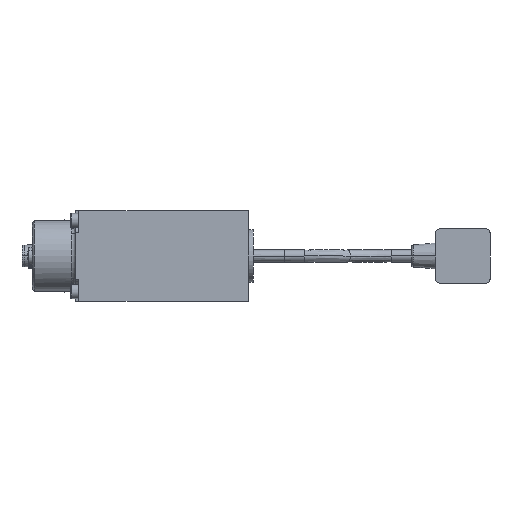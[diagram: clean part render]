
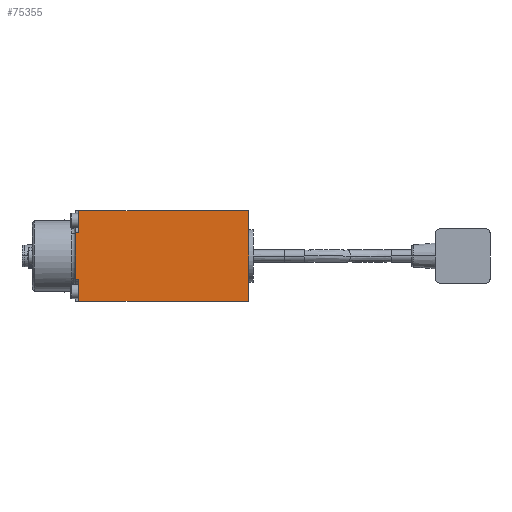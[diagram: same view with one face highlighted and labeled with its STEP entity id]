
A CAD part, front view. The second image highlights one B-rep face of the part: STEP entity #75355.
In plain terms, the highlighted planar face has unit normal (0, -1, 0).
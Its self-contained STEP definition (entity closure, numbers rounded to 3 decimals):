
#42582 = FACE_OUTER_BOUND ( 'NONE', #82994, .T. ) ;
#42585 = AXIS2_PLACEMENT_3D ( 'NONE', #46135, #46136, #46139 ) ;
#46132 = PLANE ( 'NONE',  #42585 ) ;
#46135 = CARTESIAN_POINT ( 'NONE',  ( 86., -22.5, 22.5 ) ) ;
#46136 = DIRECTION ( 'NONE',  ( 0., 1., 0. ) ) ;
#46139 = DIRECTION ( 'NONE',  ( 0., 0., 1. ) ) ;
#75355 = ADVANCED_FACE ( 'NONE', ( #42582 ), #46132, .F. ) ;
#76759 = VECTOR ( 'NONE', #81945, 1000. ) ;
#76814 = VECTOR ( 'NONE', #82269, 1000. ) ;
#76820 = VECTOR ( 'NONE', #82299, 1000. ) ;
#76822 = VECTOR ( 'NONE', #82311, 1000. ) ;
#76823 = VECTOR ( 'NONE', #82317, 1000. ) ;
#76824 = VECTOR ( 'NONE', #82323, 1000. ) ;
#76825 = VECTOR ( 'NONE', #82329, 1000. ) ;
#76827 = VECTOR ( 'NONE', #82335, 1000. ) ;
#81941 = LINE ( 'NONE', #81943, #76759 ) ;
#81943 = CARTESIAN_POINT ( 'NONE',  ( 0., -22.5, 22.5 ) ) ;
#81945 = DIRECTION ( 'NONE',  ( 0., 0., -1. ) ) ;
#82265 = LINE ( 'NONE', #82267, #76814 ) ;
#82267 = CARTESIAN_POINT ( 'NONE',  ( 86., -22.5, -22.5 ) ) ;
#82269 = DIRECTION ( 'NONE',  ( -1., 0., 0. ) ) ;
#82295 = LINE ( 'NONE', #82297, #76820 ) ;
#82297 = CARTESIAN_POINT ( 'NONE',  ( 86., -22.5, 22.5 ) ) ;
#82299 = DIRECTION ( 'NONE',  ( -1., 0., 0. ) ) ;
#82307 = LINE ( 'NONE', #82309, #76822 ) ;
#82309 = CARTESIAN_POINT ( 'NONE',  ( 1.5, -22.5, 11.68 ) ) ;
#82311 = DIRECTION ( 'NONE',  ( -1., 0., 0. ) ) ;
#82313 = LINE ( 'NONE', #82315, #76823 ) ;
#82315 = CARTESIAN_POINT ( 'NONE',  ( 1.5, -22.5, 11.68 ) ) ;
#82317 = DIRECTION ( 'NONE',  ( 0., 0., 1. ) ) ;
#82319 = LINE ( 'NONE', #82321, #76824 ) ;
#82321 = CARTESIAN_POINT ( 'NONE',  ( 1.5, -22.5, -11.68 ) ) ;
#82323 = DIRECTION ( 'NONE',  ( -1., 0., 0. ) ) ;
#82325 = LINE ( 'NONE', #82327, #76825 ) ;
#82327 = CARTESIAN_POINT ( 'NONE',  ( 1.5, -22.5, -11.68 ) ) ;
#82329 = DIRECTION ( 'NONE',  ( 0., 0., 1. ) ) ;
#82331 = LINE ( 'NONE', #82333, #76827 ) ;
#82333 = CARTESIAN_POINT ( 'NONE',  ( 86., -22.5, 22.5 ) ) ;
#82335 = DIRECTION ( 'NONE',  ( 0., 0., -1. ) ) ;
#82994 = EDGE_LOOP ( 'NONE', ( #95355, #95357, #95356, #95358, #95360, #95359, #95361, #95363 ) ) ;
#88694 = CARTESIAN_POINT ( 'NONE',  ( 0., -22.5, -11.68 ) ) ;
#88695 = CARTESIAN_POINT ( 'NONE',  ( 0., -22.5, 11.68 ) ) ;
#88732 = CARTESIAN_POINT ( 'NONE',  ( 1.5, -22.5, -22.5 ) ) ;
#88734 = CARTESIAN_POINT ( 'NONE',  ( 86., -22.5, -22.5 ) ) ;
#88737 = CARTESIAN_POINT ( 'NONE',  ( 1.5, -22.5, 22.5 ) ) ;
#88738 = CARTESIAN_POINT ( 'NONE',  ( 86., -22.5, 22.5 ) ) ;
#88739 = CARTESIAN_POINT ( 'NONE',  ( 1.5, -22.5, 11.68 ) ) ;
#88740 = CARTESIAN_POINT ( 'NONE',  ( 1.5, -22.5, -11.68 ) ) ;
#91585 = EDGE_CURVE ( 'NONE', #95554, #95553, #81941, .T. ) ;
#91639 = EDGE_CURVE ( 'NONE', #95593, #95591, #82265, .T. ) ;
#91644 = EDGE_CURVE ( 'NONE', #95597, #95596, #82295, .T. ) ;
#91646 = EDGE_CURVE ( 'NONE', #95598, #95554, #82307, .T. ) ;
#91647 = EDGE_CURVE ( 'NONE', #95598, #95596, #82313, .T. ) ;
#91648 = EDGE_CURVE ( 'NONE', #95599, #95553, #82319, .T. ) ;
#91649 = EDGE_CURVE ( 'NONE', #95591, #95599, #82325, .T. ) ;
#91650 = EDGE_CURVE ( 'NONE', #95597, #95593, #82331, .T. ) ;
#95355 = ORIENTED_EDGE ( 'NONE', *, *, #91647, .F. ) ;
#95356 = ORIENTED_EDGE ( 'NONE', *, *, #91585, .T. ) ;
#95357 = ORIENTED_EDGE ( 'NONE', *, *, #91646, .T. ) ;
#95358 = ORIENTED_EDGE ( 'NONE', *, *, #91648, .F. ) ;
#95359 = ORIENTED_EDGE ( 'NONE', *, *, #91639, .F. ) ;
#95360 = ORIENTED_EDGE ( 'NONE', *, *, #91649, .F. ) ;
#95361 = ORIENTED_EDGE ( 'NONE', *, *, #91650, .F. ) ;
#95363 = ORIENTED_EDGE ( 'NONE', *, *, #91644, .T. ) ;
#95553 = VERTEX_POINT ( 'NONE', #88694 ) ;
#95554 = VERTEX_POINT ( 'NONE', #88695 ) ;
#95591 = VERTEX_POINT ( 'NONE', #88732 ) ;
#95593 = VERTEX_POINT ( 'NONE', #88734 ) ;
#95596 = VERTEX_POINT ( 'NONE', #88737 ) ;
#95597 = VERTEX_POINT ( 'NONE', #88738 ) ;
#95598 = VERTEX_POINT ( 'NONE', #88739 ) ;
#95599 = VERTEX_POINT ( 'NONE', #88740 ) ;
